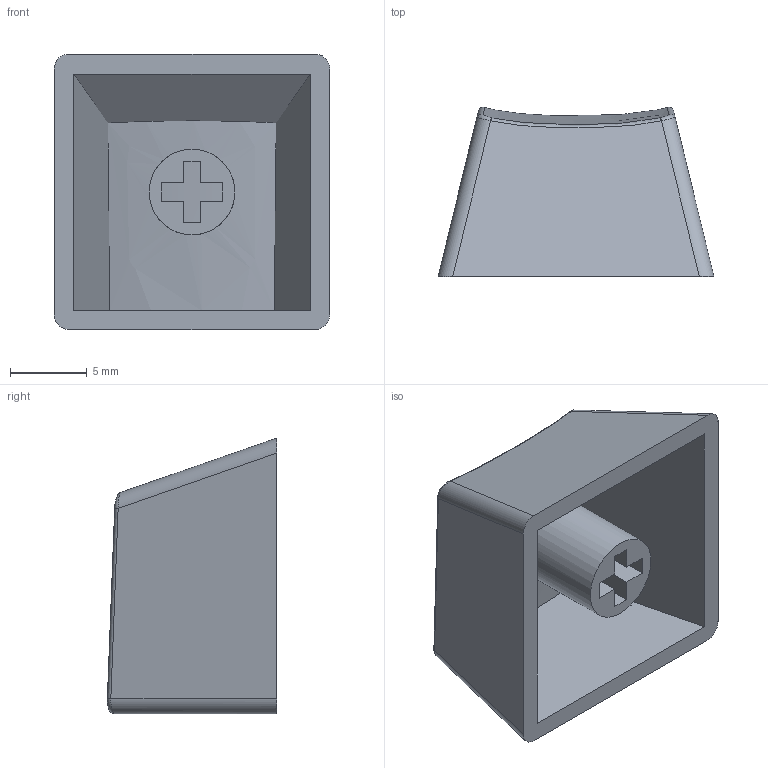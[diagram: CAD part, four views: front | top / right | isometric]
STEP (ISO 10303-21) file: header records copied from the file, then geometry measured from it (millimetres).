
FILE_DESCRIPTION(/* description */ ('STEP AP242 Edition 2','CAx-IF Rec.Pracs.---Representation and Presentation of Product Manufacturing Information (PMI)---4.0---2014-10-13','CAx-IF Rec.Pracs.---3D Tessellated Geometry---0.4---2014-09-14','2;1','CAx-IF Rec.Pracs.---User Defined Attributes---1.5---2016-08-15'),/* implementation_level */ '2;1');
FILE_NAME(/* name */ 'Cherry MX keycaps parts - 1x1 R4 v6-1__Body2',/* time_stamp */ '2026-10-25T00:38:36Z',/* author */ (''),/* organization */ (''),/* preprocessor_version */ 'ST-DEVELOPER v20',/* originating_system */ 'ONSHAPE BY PTC INC, 1.222',/* authorisation */ ' ');
FILE_SCHEMA (('AP242_MANAGED_MODEL_BASED_3D_ENGINEERING_MIM_LF { 1 0 10303 442 3 1 4 }'));
Length unit declared in the file: metre
Products named in the file (1): 1x1 R4 v6:1__Body2
Bounding box: 18 x 11.06 x 18 mm (x, y, z)
Volume: 1087.5 mm3; surface area: 1883.9 mm2
Topology: 1 solids, 1 shells, 38 faces, 92 edges, 59 vertices
Faces by surface type: plane 22, cylinder 8, bspline 4, torus 4
Full cylindrical faces by diameter (mm): 5.6 x1
Entity records: 1277 total; most frequent: CARTESIAN_POINT 435, ORIENTED_EDGE 180, DIRECTION 142, EDGE_CURVE 90, VERTEX_POINT 58, LINE 50, VECTOR 50, AXIS2_PLACEMENT_3D 46
